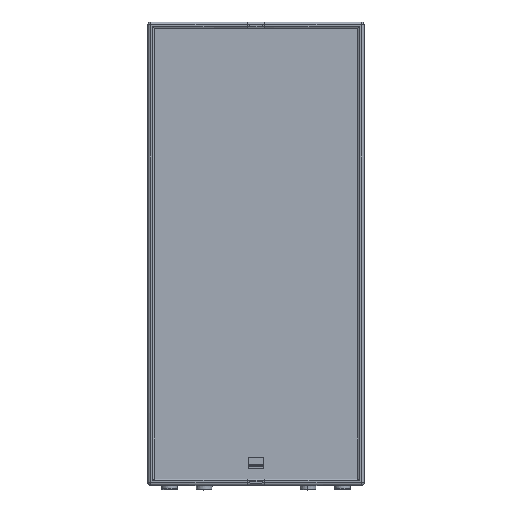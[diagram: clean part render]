
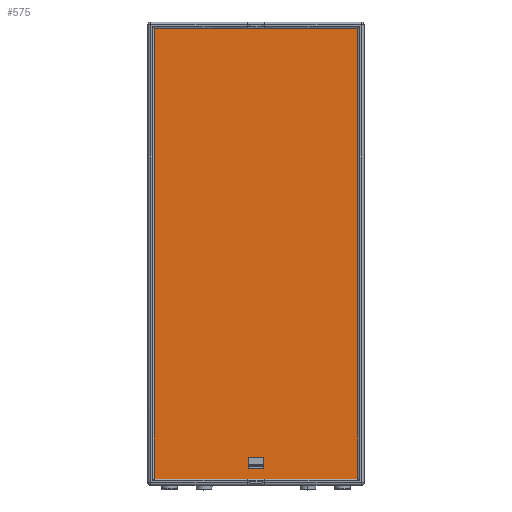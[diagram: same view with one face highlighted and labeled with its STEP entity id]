
A CAD part, top view. The second image highlights one B-rep face of the part: STEP entity #575.
In plain terms, the highlighted planar face has unit normal (0, 0, 1) as drawn and (0, -1, 0) by its records, which use the part's own axes.
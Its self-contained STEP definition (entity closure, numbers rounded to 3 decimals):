
#503 = EDGE_CURVE ( 'NONE', #504, #578, #7529, .T. ) ;
#504 = VERTEX_POINT ( 'NONE', #7525 ) ;
#505 = ORIENTED_EDGE ( 'NONE', *, *, #506, .T. ) ;
#506 = EDGE_CURVE ( 'NONE', #504, #507, #7524, .T. ) ;
#507 = VERTEX_POINT ( 'NONE', #7520 ) ;
#508 = ORIENTED_EDGE ( 'NONE', *, *, #557, .F. ) ;
#557 = EDGE_CURVE ( 'NONE', #579, #507, #7636, .T. ) ;
#572 = EDGE_LOOP ( 'NONE', ( #576, #580, #505, #508 ) ) ;
#575 = ADVANCED_FACE ( 'NONE', ( #7669 ), #7672, .T. ) ;
#576 = ORIENTED_EDGE ( 'NONE', *, *, #577, .F. ) ;
#577 = EDGE_CURVE ( 'NONE', #578, #579, #7666, .T. ) ;
#578 = VERTEX_POINT ( 'NONE', #7660 ) ;
#579 = VERTEX_POINT ( 'NONE', #7659 ) ;
#580 = ORIENTED_EDGE ( 'NONE', *, *, #503, .F. ) ;
#7520 = CARTESIAN_POINT ( 'NONE',  ( 15., 4., 1083. ) ) ;
#7521 = DIRECTION ( 'NONE',  ( -1., 0., 0. ) ) ;
#7522 = VECTOR ( 'NONE', #7521, 1000. ) ;
#7523 = CARTESIAN_POINT ( 'NONE',  ( 15., 4., 1083. ) ) ;
#7524 = LINE ( 'NONE', #7523, #7522 ) ;
#7525 = CARTESIAN_POINT ( 'NONE',  ( 497., 4., 1083. ) ) ;
#7526 = DIRECTION ( 'NONE',  ( 0., 0., -1. ) ) ;
#7527 = VECTOR ( 'NONE', #7526, 1000. ) ;
#7528 = CARTESIAN_POINT ( 'NONE',  ( 497., 4., 15. ) ) ;
#7529 = LINE ( 'NONE', #7528, #7527 ) ;
#7633 = DIRECTION ( 'NONE',  ( 0., 0., 1. ) ) ;
#7634 = VECTOR ( 'NONE', #7633, 1000. ) ;
#7635 = CARTESIAN_POINT ( 'NONE',  ( 15., 4., 15. ) ) ;
#7636 = LINE ( 'NONE', #7635, #7634 ) ;
#7659 = CARTESIAN_POINT ( 'NONE',  ( 15., 4., 15. ) ) ;
#7660 = CARTESIAN_POINT ( 'NONE',  ( 497., 4., 15. ) ) ;
#7661 = DIRECTION ( 'NONE',  ( -1., 0., 0. ) ) ;
#7662 = VECTOR ( 'NONE', #7661, 1000. ) ;
#7663 = CARTESIAN_POINT ( 'NONE',  ( 256., 4., 15. ) ) ;
#7664 = DIRECTION ( 'NONE',  ( 0., 0., -1. ) ) ;
#7665 = DIRECTION ( 'NONE',  ( 0., -1., 0. ) ) ;
#7666 = LINE ( 'NONE', #7663, #7662 ) ;
#7667 = CARTESIAN_POINT ( 'NONE',  ( 497., 4., 15. ) ) ;
#7668 = AXIS2_PLACEMENT_3D ( 'NONE', #7667, #7665, #7664 ) ;
#7669 = FACE_OUTER_BOUND ( 'NONE', #572, .T. ) ;
#7672 = PLANE ( 'NONE',  #7668 ) ;
